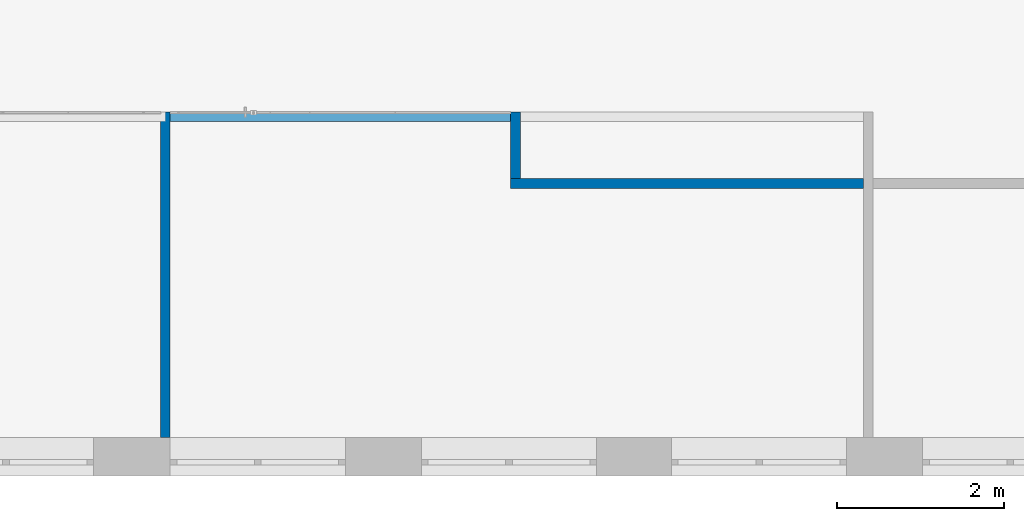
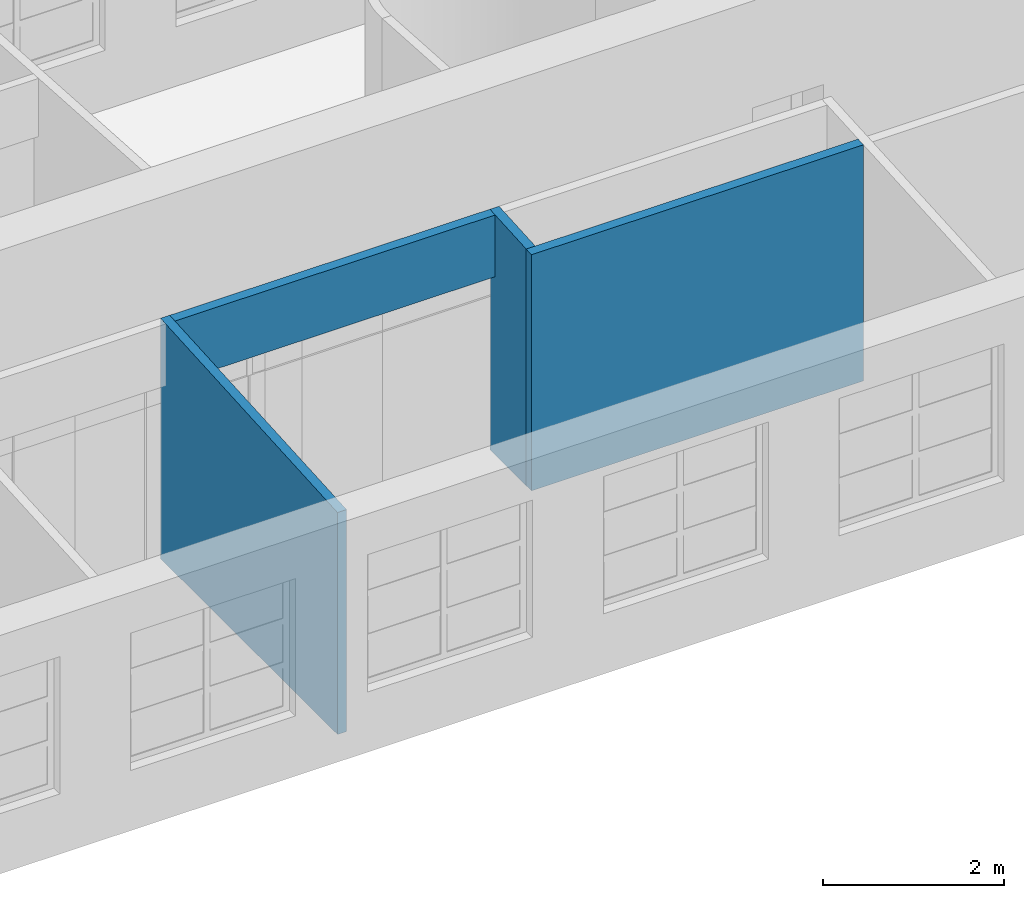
# One storey, part 30 of 46: 4 walls.
"""IFC2X3 building model written with IfcOpenShell, lengths in millimetres."""

from ifc_helpers import new_model, entity, si_unit, converted_unit, derived_unit, direction, frame, frame_2d, origin, place, context, subcontext, project, spatial, polyline, rectangle, extrude, clip, bounded_halfspace, material, layer, layer_set, layer_usage, type_object, element, save


model = new_model("IFC2X3")

# Units and contexts
model_context = context("Model", 3, precision=0.01, world=origin(), true_north=direction((6.12303176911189e-17, 1.0)))
body_context = subcontext(model_context, "Body", "Model", "MODEL_VIEW")
ifc_project = project(units=[si_unit("LENGTHUNIT", "METRE", prefix="MILLI"), si_unit("AREAUNIT", "SQUARE_METRE"), si_unit("VOLUMEUNIT", "CUBIC_METRE"), converted_unit("PLANEANGLEUNIT", "DEGREE", entity("IfcRatioMeasure", 0.0174532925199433), si_unit("PLANEANGLEUNIT", "RADIAN"), dimensions=[0, 0, 0, 0, 0, 0, 0]), si_unit("MASSUNIT", "GRAM", prefix="KILO"), derived_unit("MASSDENSITYUNIT", [(si_unit("MASSUNIT", "GRAM", prefix="KILO"), 1), (si_unit("LENGTHUNIT", "METRE"), -3)]), si_unit("TIMEUNIT", "SECOND"), si_unit("FREQUENCYUNIT", "HERTZ"), si_unit("THERMODYNAMICTEMPERATUREUNIT", "DEGREE_CELSIUS"), derived_unit("THERMALTRANSMITTANCEUNIT", [(si_unit("MASSUNIT", "GRAM", prefix="KILO"), 1), (si_unit("THERMODYNAMICTEMPERATUREUNIT", "KELVIN"), -1), (si_unit("TIMEUNIT", "SECOND"), -3)]), derived_unit("VOLUMETRICFLOWRATEUNIT", [(si_unit("LENGTHUNIT", "METRE"), 3), (si_unit("TIMEUNIT", "SECOND"), -1)]), si_unit("ELECTRICCURRENTUNIT", "AMPERE"), si_unit("ELECTRICVOLTAGEUNIT", "VOLT"), si_unit("POWERUNIT", "WATT"), si_unit("FORCEUNIT", "NEWTON", prefix="KILO"), si_unit("ILLUMINANCEUNIT", "LUX"), si_unit("LUMINOUSFLUXUNIT", "LUMEN"), si_unit("LUMINOUSINTENSITYUNIT", "CANDELA"), derived_unit("USERDEFINED", [(si_unit("MASSUNIT", "GRAM", prefix="KILO"), -1), (si_unit("LENGTHUNIT", "METRE"), -2), (si_unit("TIMEUNIT", "SECOND"), 3), (si_unit("LUMINOUSFLUXUNIT", "LUMEN"), 1)]), derived_unit("LINEARVELOCITYUNIT", [(si_unit("LENGTHUNIT", "METRE"), 1), (si_unit("TIMEUNIT", "SECOND"), -1)]), si_unit("PRESSUREUNIT", "PASCAL"), derived_unit("USERDEFINED", [(si_unit("LENGTHUNIT", "METRE"), -2), (si_unit("MASSUNIT", "GRAM", prefix="KILO"), 1), (si_unit("TIMEUNIT", "SECOND"), -2)])], contexts=[model_context])

# Site, building, storey
site_placement = place(None, frame((-151.875543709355, 2715.0, 0.0)))
site = spatial("IfcSite", under=ifc_project, at=site_placement, Name="Surface", CompositionType="ELEMENT")
building_placement = place(site_placement, origin())
building = spatial("IfcBuilding", under=site, at=building_placement, CompositionType="ELEMENT")
storey_placement = place(building_placement, frame((0.0, 0.0, 10060.0)))
storey = spatial("IfcBuildingStorey", under=building, at=storey_placement, Name="4 korrus", CompositionType="ELEMENT", Elevation=10060.0000000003)

# Walls
ifc_material_1 = material(Name="__Kips GN13_tava")
ifc_layer_1 = layer(ifc_material_1, 12.5)
ifc_layer_2 = layer(ifc_material_1, 12.5)
ifc_material_2 = material(Name="__Soojustus EPS")
ifc_layer_3 = layer(ifc_material_2, 66.0)
ifc_layer_4 = layer(ifc_material_1, 12.5)
ifc_layer_5 = layer(ifc_material_1, 12.5)
ifc_layer_set = layer_set([ifc_layer_1, ifc_layer_2, ifc_layer_3, ifc_layer_4, ifc_layer_5], Name="Basic Wall:SS-3_Kipssein tava ruumide vahel")
ifc_layer_usage_1 = layer_usage(ifc_layer_set, "AXIS2", "NEGATIVE", 58.0)
wall_type = type_object("IfcWallType", Name="Basic Wall:SS-3_Kipssein tava ruumide vahel", PredefinedType="STANDARD", material=ifc_layer_set)
wall_1_placement = place(storey_placement, frame((24229.564726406, 3507.04493399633, 0.0), z_axis=(0.0, 0.0, 1.0), x_axis=(-1.0, 0.0, 0.0)))
element("IfcWallStandardCase", 1, at=wall_1_placement, inside=storey, type_object=wall_type, material=ifc_layer_usage_1, Name="Basic Wall:SS-3_Kipssein tava ruumide vahel", ObjectType="Basic Wall:SS-3_Kipssein tava ruumide vahel", context=body_context, shape_type="Clipping", body=[
    clip(extrude(rectangle(XDim=4230.00043151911, YDim=116.0, at=frame_2d((2115.00021575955, -2.8421709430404e-14), x_axis=(-1.0, 0.0))), origin(), (0.0, 0.0, 1.0), 3187.49594281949), bounded_halfspace(frame((0.0, -58.0, 3187.49594281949), z_axis=(0.0, 0.0638356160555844, 0.997960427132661), x_axis=(-1.0, 0.0, 0.0)), False, frame((0.0, -58.0, 3187.49594281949)), polyline([(0.0, 0.0), (4114.00043151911, 0.0), (4230.00043151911, 0.0), (4230.00043151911, 116.0), (0.0, 116.0), (0.0, 0.0)]))),
])
ifc_layer_usage_2 = layer_usage(ifc_layer_set, "AXIS2", "NEGATIVE", 58.0)
wall_2_placement = place(storey_placement, frame((20057.5642948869, 3565.04493399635, 0.0), z_axis=(0.0, 0.0, 1.0), x_axis=(0.0, 1.0, 0.0)))
element("IfcWallStandardCase", 2, at=wall_2_placement, inside=storey, type_object=wall_type, material=ifc_layer_usage_2, Name="Basic Wall:SS-3_Kipssein tava ruumide vahel", ObjectType="Basic Wall:SS-3_Kipssein tava ruumide vahel", context=body_context, shape_type="Clipping", body=[
    clip(extrude(rectangle(XDim=799.999999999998, YDim=116.0, at=frame_2d((399.999999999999, 0.0), x_axis=(-1.0, 0.0))), origin(), (0.0, 0.0, 1.0), 3238.66880644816), bounded_halfspace(frame((0.0, -58.0, 3187.49594281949), z_axis=(-0.0638356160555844, 0.0, 0.997960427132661), x_axis=(0.0, -1.0, 0.0)), False, frame((0.0, -58.0, 3187.49594281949)), polyline([(0.0, 0.0), (800.0, 0.0), (800.0, 116.0), (684.0, 116.0), (0.0, 116.0), (0.0, 0.0)]))),
])
ifc_layer_usage_3 = layer_usage(ifc_layer_set, "AXIS2", "NEGATIVE", 58.0)
wall_3_placement = place(storey_placement, frame((15861.5647264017, 459.904632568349, 0.0), z_axis=(0.0, 0.0, 1.0), x_axis=(0.0, 1.0, 0.0)))
element("IfcWallStandardCase", 3, at=wall_3_placement, inside=storey, type_object=wall_type, material=ifc_layer_usage_3, Name="Basic Wall:SS-3_Kipssein tava ruumide vahel", ObjectType="Basic Wall:SS-3_Kipssein tava ruumide vahel", context=body_context, shape_type="Clipping", body=[
    clip(extrude(rectangle(XDim=3905.29099430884, YDim=116.0, at=frame_2d((1952.64549715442, 0.0), x_axis=(-1.0, 0.0))), origin(), (0.0, 0.0, 1.0), 3238.67844568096), bounded_halfspace(frame((0.0, -58.0, 2988.87229132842), z_axis=(-0.0638356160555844, 0.0, 0.997960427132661), x_axis=(0.0, -1.0, 0.0)), False, frame((0.0, -58.0, 2988.87229132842)), polyline([(0.0, 0.0), (3905.29099430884, 0.0), (3905.29099430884, 116.0), (0.0, 116.0), (0.0, 0.0)]))),
])
ifc_layer_usage_4 = layer_usage(ifc_layer_set, "AXIS2", "NEGATIVE", 58.0)
wall_4_placement = place(storey_placement, frame((15861.5647264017, 4307.04493399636, 2400.0)))
element("IfcWallStandardCase", 4, at=wall_4_placement, inside=storey, type_object=wall_type, material=ifc_layer_usage_4, Name="Basic Wall:SS-3_Kipssein tava ruumide vahel", ObjectType="Basic Wall:SS-3_Kipssein tava ruumide vahel", context=body_context, shape_type="Clipping", body=[
    clip(extrude(rectangle(XDim=4137.99956848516, YDim=116.0, at=frame_2d((2068.99978424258, 6.3948846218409e-14), x_axis=(-1.0, 0.0))), origin(), (0.0, 0.0, 1.0), 838.668806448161), bounded_halfspace(frame((0.0, -58.0, 831.248741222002), z_axis=(0.0, -0.0638356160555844, 0.997960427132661), x_axis=(1.0, 0.0, 0.0)), False, frame((0.0, -58.0, 831.248741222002)), polyline([(0.0, 0.0), (4137.99956848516, 0.0), (4137.99956848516, 116.0), (0.0, 116.0), (0.0, 0.0)]))),
])

save(model, "model.ifc")
